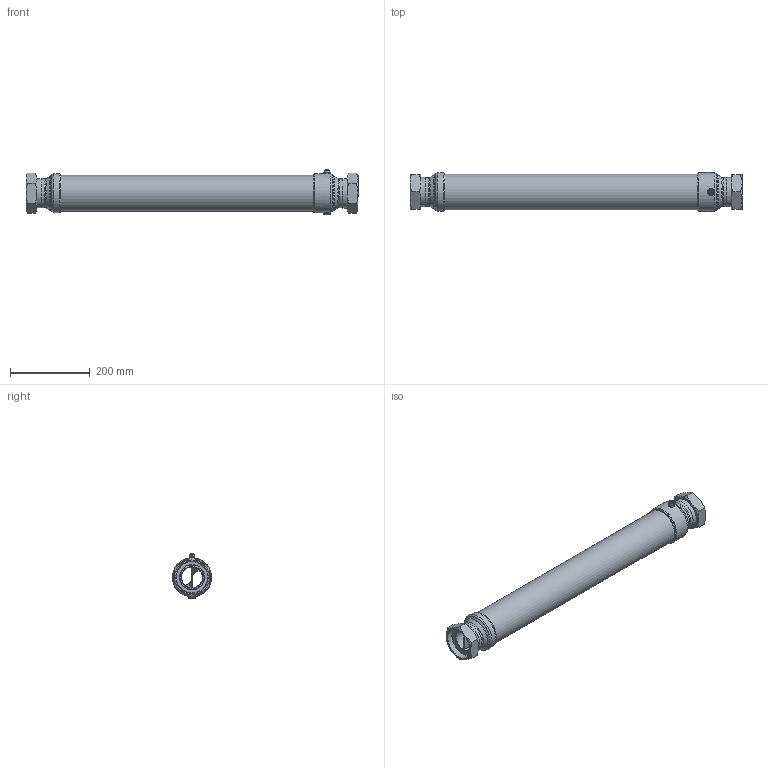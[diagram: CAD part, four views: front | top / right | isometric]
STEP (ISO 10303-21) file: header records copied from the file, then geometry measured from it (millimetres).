
FILE_DESCRIPTION(/* description */ (''),/* implementation_level */ '2;1');
FILE_NAME(/* name */ 'TU H-B 360_3D_V1.0_Simplifier_1.stp',/* time_stamp */ '2024-02-01T14:50:15+01:00',/* author */ ('MassimoMaselli'),/* organization */ (''),/* preprocessor_version */ 'ST-DEVELOPER v20',/* originating_system */ 'Autodesk Inventor 2024',/* authorisation */ '');
FILE_SCHEMA (('AUTOMOTIVE_DESIGN { 1 0 10303 214 3 1 1 }'));
Length unit declared in the file: millimetre
Products named in the file (1): TU H-B 360_V1.0_Simplifier_1
Bounding box: 833.6 x 98 x 114.75 mm (x, y, z)
Volume: 1092374.3 mm3; surface area: 843899.1 mm2
Topology: 14 solids, 16 shells, 1060 faces, 2679 edges, 1743 vertices
Faces by surface type: plane 503, cylinder 233, bspline 177, cone 95, torus 52
Full cylindrical faces by diameter (mm): 0.6 x8, 0.65 x8, 0.7 x8, 1 x9, 1.1 x8, 1.17 x8, 1.24 x8, 1.567 x3, 5.2 x2, 10 x2, 10.25 x5, 10.376 x1, 11 x1, 11.084 x1, 11.9 x1, 12 x4, 13.148 x1, 13.3 x1, 14 x1, 15.5 x1, 52 x2, 53.6 x1, 63 x1, 63.2 x2, 63.3 x4, 67.85 x2, 71.553 x2, 72.5 x2, 72.8 x2, 74 x2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
Entity records: 40308 total; most frequent: CARTESIAN_POINT 13995, ORIENTED_EDGE 5334, DIRECTION 4946, EDGE_CURVE 2668, AXIS2_PLACEMENT_3D 1781, VERTEX_POINT 1743, LINE 1384, VECTOR 1384
